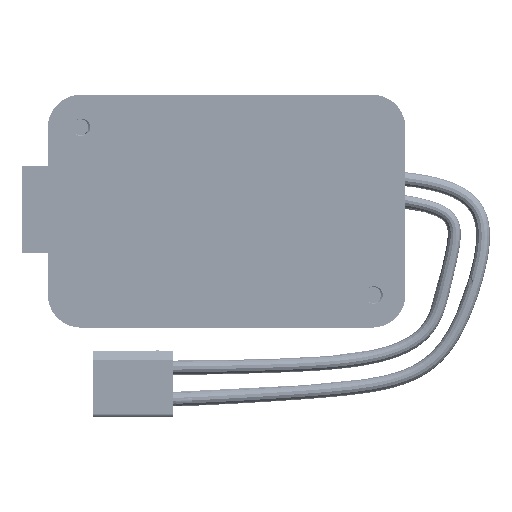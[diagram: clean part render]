
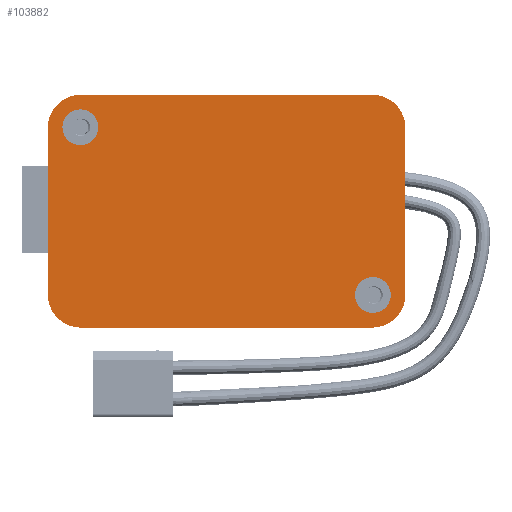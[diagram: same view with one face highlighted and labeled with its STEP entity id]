
A CAD part, front view. The second image highlights one B-rep face of the part: STEP entity #103882.
In plain terms, the highlighted planar face has unit normal (0, -1, 0).
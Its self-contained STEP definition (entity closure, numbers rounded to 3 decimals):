
#3663=FACE_BOUND('',#19352,.T.);
#3664=FACE_BOUND('',#19353,.T.);
#7041=PLANE('',#112942);
#12697=FACE_OUTER_BOUND('',#19351,.T.);
#19351=EDGE_LOOP('',(#92581,#92582,#92583,#92584,#92585,#92586,#92587,#92588));
#19352=EDGE_LOOP('',(#92589));
#19353=EDGE_LOOP('',(#92590));
#29030=LINE('',#180482,#38734);
#29062=LINE('',#180570,#38766);
#29065=LINE('',#180578,#38769);
#29067=LINE('',#180584,#38771);
#38734=VECTOR('',#139521,10.);
#38766=VECTOR('',#139631,10.);
#38769=VECTOR('',#139640,10.);
#38771=VECTOR('',#139648,10.);
#41785=CIRCLE('',#112895,5.2);
#41786=CIRCLE('',#112898,5.2);
#41793=CIRCLE('',#112918,2.8);
#41796=CIRCLE('',#112924,2.8);
#41797=CIRCLE('',#112937,5.2);
#41798=CIRCLE('',#112940,5.2);
#50501=VERTEX_POINT('',#180474);
#50502=VERTEX_POINT('',#180476);
#50503=VERTEX_POINT('',#180480);
#50504=VERTEX_POINT('',#180484);
#50516=VERTEX_POINT('',#180535);
#50519=VERTEX_POINT('',#180546);
#50520=VERTEX_POINT('',#180568);
#50521=VERTEX_POINT('',#180572);
#50522=VERTEX_POINT('',#180576);
#50523=VERTEX_POINT('',#180580);
#64494=EDGE_CURVE('',#50501,#50502,#41785,.T.);
#64497=EDGE_CURVE('',#50503,#50501,#29030,.T.);
#64499=EDGE_CURVE('',#50504,#50503,#41786,.T.);
#64524=EDGE_CURVE('',#50516,#50516,#41793,.T.);
#64529=EDGE_CURVE('',#50519,#50519,#41796,.T.);
#64540=EDGE_CURVE('',#50520,#50504,#29062,.T.);
#64542=EDGE_CURVE('',#50521,#50520,#41797,.T.);
#64544=EDGE_CURVE('',#50522,#50521,#29065,.T.);
#64546=EDGE_CURVE('',#50523,#50522,#41798,.T.);
#64547=EDGE_CURVE('',#50502,#50523,#29067,.T.);
#92581=ORIENTED_EDGE('',*,*,#64494,.F.);
#92582=ORIENTED_EDGE('',*,*,#64497,.F.);
#92583=ORIENTED_EDGE('',*,*,#64499,.F.);
#92584=ORIENTED_EDGE('',*,*,#64540,.F.);
#92585=ORIENTED_EDGE('',*,*,#64542,.F.);
#92586=ORIENTED_EDGE('',*,*,#64544,.F.);
#92587=ORIENTED_EDGE('',*,*,#64546,.F.);
#92588=ORIENTED_EDGE('',*,*,#64547,.F.);
#92589=ORIENTED_EDGE('',*,*,#64524,.T.);
#92590=ORIENTED_EDGE('',*,*,#64529,.T.);
#103882=ADVANCED_FACE('',(#12697,#3663,#3664),#7041,.F.);
#112895=AXIS2_PLACEMENT_3D('',#180477,#139515,#139516);
#112898=AXIS2_PLACEMENT_3D('',#180486,#139525,#139526);
#112918=AXIS2_PLACEMENT_3D('',#180536,#139583,#139584);
#112924=AXIS2_PLACEMENT_3D('',#180547,#139597,#139598);
#112937=AXIS2_PLACEMENT_3D('',#180574,#139635,#139636);
#112940=AXIS2_PLACEMENT_3D('',#180582,#139644,#139645);
#112942=AXIS2_PLACEMENT_3D('',#180585,#139649,#139650);
#139515=DIRECTION('center_axis',(0.,1.,0.));
#139516=DIRECTION('ref_axis',(0.,0.,1.));
#139521=DIRECTION('',(1.,0.,0.));
#139525=DIRECTION('center_axis',(0.,1.,0.));
#139526=DIRECTION('ref_axis',(-1.,0.,0.));
#139583=DIRECTION('center_axis',(0.,1.,0.));
#139584=DIRECTION('ref_axis',(0.,0.,-1.));
#139597=DIRECTION('center_axis',(0.,1.,0.));
#139598=DIRECTION('ref_axis',(0.,0.,-1.));
#139631=DIRECTION('',(0.,0.,1.));
#139635=DIRECTION('center_axis',(0.,1.,0.));
#139636=DIRECTION('ref_axis',(0.,0.,-1.));
#139640=DIRECTION('',(-1.,0.,0.));
#139644=DIRECTION('center_axis',(0.,1.,0.));
#139645=DIRECTION('ref_axis',(1.,0.,0.));
#139648=DIRECTION('',(0.,0.,-1.));
#139649=DIRECTION('center_axis',(0.,1.,0.));
#139650=DIRECTION('ref_axis',(1.,0.,0.));
#180474=CARTESIAN_POINT('',(22.75,0.,18.2));
#180476=CARTESIAN_POINT('',(27.95,0.,13.));
#180477=CARTESIAN_POINT('Origin',(22.75,0.,13.));
#180480=CARTESIAN_POINT('',(-22.75,0.,18.2));
#180482=CARTESIAN_POINT('',(-22.75,0.,18.2));
#180484=CARTESIAN_POINT('',(-27.95,0.,13.));
#180486=CARTESIAN_POINT('Origin',(-22.75,0.,13.));
#180535=CARTESIAN_POINT('',(22.85,0.,-10.3));
#180536=CARTESIAN_POINT('Origin',(22.85,0.,-13.1));
#180546=CARTESIAN_POINT('',(-22.85,0.,15.9));
#180547=CARTESIAN_POINT('Origin',(-22.85,0.,13.1));
#180568=CARTESIAN_POINT('',(-27.95,0.,-13.));
#180570=CARTESIAN_POINT('',(-27.95,0.,-13.));
#180572=CARTESIAN_POINT('',(-22.75,0.,-18.2));
#180574=CARTESIAN_POINT('Origin',(-22.75,0.,-13.));
#180576=CARTESIAN_POINT('',(22.75,0.,-18.2));
#180578=CARTESIAN_POINT('',(22.75,0.,-18.2));
#180580=CARTESIAN_POINT('',(27.95,0.,-13.));
#180582=CARTESIAN_POINT('Origin',(22.75,0.,-13.));
#180584=CARTESIAN_POINT('',(27.95,0.,13.));
#180585=CARTESIAN_POINT('Origin',(0.,0.,0.));
